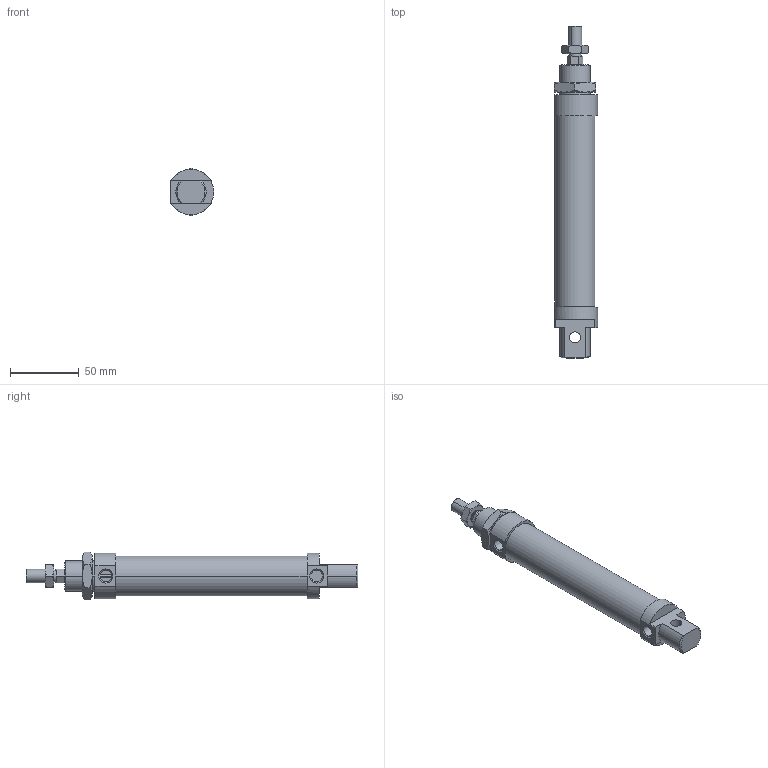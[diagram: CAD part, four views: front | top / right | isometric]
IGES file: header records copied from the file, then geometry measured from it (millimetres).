
Global section: file name: No Iges File Name specified; native system: AutoDesk Inventor R6.0; preprocessor: AutoDesk Inventor Iges Exporter R6.0; author: No Author specified; organization: No Organization specified; date: 20030405.074213; units: millimetre
Bounding box: 31.5 x 241 x 34.64 mm (x, y, z)
Volume: 134601.9 mm3; surface area: 34788.6 mm2
Topology: 4 solids, 4 shells, 125 faces, 285 edges, 174 vertices
Faces by surface type: plane 46, cone 38, bspline 21, cylinder 16, revolution 4
